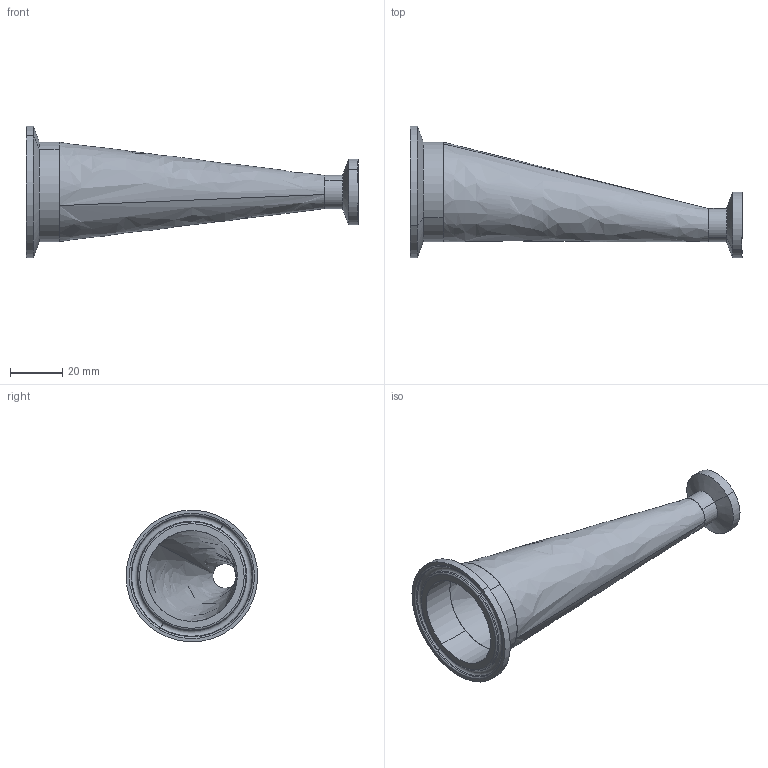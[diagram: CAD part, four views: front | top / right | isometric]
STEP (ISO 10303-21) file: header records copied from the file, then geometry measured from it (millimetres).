
FILE_DESCRIPTION (( 'STEP AP203' ), '1' );
FILE_NAME ('EG32CC1.5X.5.STEP', '2021-10-05T18:38:02', ( '' ), ( '' ), 'SwSTEP 2.0', 'SolidWorks 2021', '' );
FILE_SCHEMA (( 'CONFIG_CONTROL_DESIGN' ));
Length unit declared in the file: inch
Products named in the file (4): EG2CS1.5; EG2CS.50; E32WW1.5X.5; EG32CC1.5X.5
Assembly tree (3 placements, depth 2):
  EG32CC1.5X.5
    E32WW1.5X.5
    EG2CS1.5
    EG2CS.50
Bounding box: 127 x 50.48 x 50.38 mm (x, y, z)
Volume: 21142.6 mm3; surface area: 22476.1 mm2
Topology: 3 solids, 3 shells, 44 faces, 88 edges, 52 vertices
Faces by surface type: cylinder 14, cone 10, plane 8, torus 8, bspline 4
Entity records: 2094 total; most frequent: CARTESIAN_POINT 718, DIRECTION 236, ORIENTED_EDGE 176, AXIS2_PLACEMENT_3D 106, EDGE_CURVE 88, CIRCLE 60, EDGE_LOOP 52, VERTEX_POINT 52
